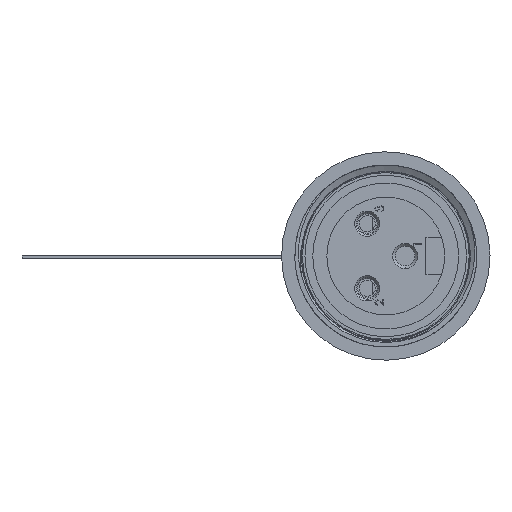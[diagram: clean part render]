
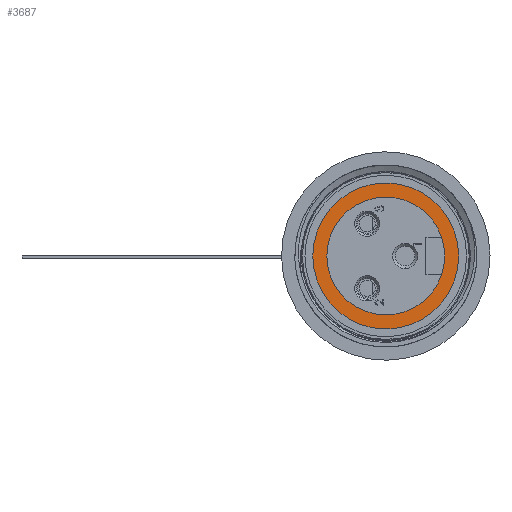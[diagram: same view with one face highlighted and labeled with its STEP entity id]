
A CAD part, left-side view. The second image highlights one B-rep face of the part: STEP entity #3687.
In plain terms, the highlighted planar face has unit normal (-1, 0, 0).
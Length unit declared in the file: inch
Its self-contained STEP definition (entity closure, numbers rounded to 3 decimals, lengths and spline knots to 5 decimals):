
#28 = VERTEX_POINT ( 'NONE', #744 ) ;
#230 = ORIENTED_EDGE ( 'NONE', *, *, #3497, .T. ) ;
#744 = CARTESIAN_POINT ( 'NONE',  ( 0.265, 0., -0.35 ) ) ;
#2698 = DIRECTION ( 'NONE',  ( -1., 0., 0. ) ) ;
#2722 = DIRECTION ( 'NONE',  ( 0., 0., 1. ) ) ;
#2723 = DIRECTION ( 'NONE',  ( -1., 0., 0. ) ) ;
#2724 = AXIS2_PLACEMENT_3D ( 'NONE', #2782, #2723, #2722 ) ;
#2725 = CIRCLE ( 'NONE', #2724, 0.2825 ) ;
#2782 = CARTESIAN_POINT ( 'NONE',  ( 0.265, 0., 0. ) ) ;
#2787 = CARTESIAN_POINT ( 'NONE',  ( 0.265, 0., 0. ) ) ;
#2819 = DIRECTION ( 'NONE',  ( 0., 0., 1. ) ) ;
#2820 = AXIS2_PLACEMENT_3D ( 'NONE', #2787, #2698, #2819 ) ;
#2821 = CIRCLE ( 'NONE', #2820, 0.35 ) ;
#2828 = DIRECTION ( 'NONE',  ( 0., 0., 1. ) ) ;
#2829 = DIRECTION ( 'NONE',  ( -1., 0., 0. ) ) ;
#2830 = CARTESIAN_POINT ( 'NONE',  ( 0.265, 0., 0. ) ) ;
#2831 = AXIS2_PLACEMENT_3D ( 'NONE', #2830, #2829, #2828 ) ;
#2832 = CIRCLE ( 'NONE', #2831, 0.35 ) ;
#2833 = CARTESIAN_POINT ( 'NONE',  ( 0.265, 0., 0.35 ) ) ;
#2948 = DIRECTION ( 'NONE',  ( 0., 0., 1. ) ) ;
#2949 = DIRECTION ( 'NONE',  ( -1., 0., 0. ) ) ;
#2950 = CARTESIAN_POINT ( 'NONE',  ( 0.265, 0., 0. ) ) ;
#2951 = AXIS2_PLACEMENT_3D ( 'NONE', #2950, #2949, #2948 ) ;
#2952 = CIRCLE ( 'NONE', #2951, 0.2825 ) ;
#3490 = ORIENTED_EDGE ( 'NONE', *, *, #8349, .F. ) ;
#3491 = EDGE_LOOP ( 'NONE', ( #3521, #230 ) ) ;
#3497 = EDGE_CURVE ( 'NONE', #28, #3523, #2821, .T. ) ;
#3512 = EDGE_CURVE ( 'NONE', #8339, #3676, #2725, .T. ) ;
#3514 = ORIENTED_EDGE ( 'NONE', *, *, #8337, .F. ) ;
#3521 = ORIENTED_EDGE ( 'NONE', *, *, #3522, .T. ) ;
#3522 = EDGE_CURVE ( 'NONE', #3523, #28, #2832, .T. ) ;
#3523 = VERTEX_POINT ( 'NONE', #2833 ) ;
#3525 = ORIENTED_EDGE ( 'NONE', *, *, #3526, .F. ) ;
#3526 = EDGE_CURVE ( 'NONE', #3676, #8272, #2952, .T. ) ;
#3658 = EDGE_LOOP ( 'NONE', ( #3525, #3685, #3514, #3490 ) ) ;
#3676 = VERTEX_POINT ( 'NONE', #3925 ) ;
#3685 = ORIENTED_EDGE ( 'NONE', *, *, #3512, .F. ) ;
#3687 = ADVANCED_FACE ( 'NONE', ( #4449, #4448 ), #4505, .F. ) ;
#3925 = CARTESIAN_POINT ( 'NONE',  ( 0.265, -0.26811, -0.089 ) ) ;
#4375 = DIRECTION ( 'NONE',  ( 0., 0., -1. ) ) ;
#4376 = DIRECTION ( 'NONE',  ( 1., 0., 0. ) ) ;
#4377 = CARTESIAN_POINT ( 'NONE',  ( 0.265, 0.2825, 0. ) ) ;
#4378 = AXIS2_PLACEMENT_3D ( 'NONE', #4377, #4376, #4375 ) ;
#4448 = FACE_OUTER_BOUND ( 'NONE', #3491, .T. ) ;
#4449 = FACE_BOUND ( 'NONE', #3658, .T. ) ;
#4505 = PLANE ( 'NONE',  #4378 ) ;
#6571 = CARTESIAN_POINT ( 'NONE',  ( 0.265, -0.26811, 0.089 ) ) ;
#6774 = CARTESIAN_POINT ( 'NONE',  ( 0.265, 0., -0.2825 ) ) ;
#6775 = CARTESIAN_POINT ( 'NONE',  ( 0.265, 0., 0.2825 ) ) ;
#6776 = DIRECTION ( 'NONE',  ( 0., 0., 1. ) ) ;
#6799 = DIRECTION ( 'NONE',  ( -1., 0., 0. ) ) ;
#6800 = AXIS2_PLACEMENT_3D ( 'NONE', #6806, #6799, #6776 ) ;
#6801 = CIRCLE ( 'NONE', #6800, 0.2825 ) ;
#6806 = CARTESIAN_POINT ( 'NONE',  ( 0.265, 0., 0. ) ) ;
#6841 = DIRECTION ( 'NONE',  ( 0., 0., 1. ) ) ;
#6842 = DIRECTION ( 'NONE',  ( -1., 0., 0. ) ) ;
#6843 = CARTESIAN_POINT ( 'NONE',  ( 0.265, 0., 0. ) ) ;
#6844 = AXIS2_PLACEMENT_3D ( 'NONE', #6843, #6842, #6841 ) ;
#6858 = CIRCLE ( 'NONE', #6844, 0.2825 ) ;
#8272 = VERTEX_POINT ( 'NONE', #6571 ) ;
#8337 = EDGE_CURVE ( 'NONE', #8338, #8339, #6801, .T. ) ;
#8338 = VERTEX_POINT ( 'NONE', #6775 ) ;
#8339 = VERTEX_POINT ( 'NONE', #6774 ) ;
#8349 = EDGE_CURVE ( 'NONE', #8272, #8338, #6858, .T. ) ;
